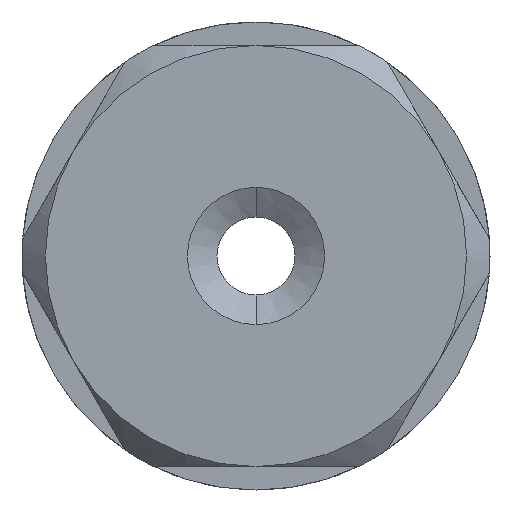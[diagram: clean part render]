
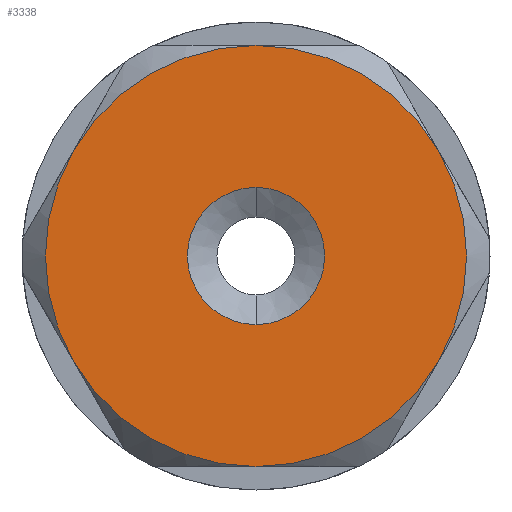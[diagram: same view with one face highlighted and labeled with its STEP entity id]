
A CAD part, front view. The second image highlights one B-rep face of the part: STEP entity #3338.
In plain terms, the highlighted planar face has unit normal (0, -1, 0).
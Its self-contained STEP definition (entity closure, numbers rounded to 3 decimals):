
#204 = CARTESIAN_POINT ( 'NONE',  ( -5.576, -27.434, 48. ) ) ;
#273 = AXIS2_PLACEMENT_3D ( 'NONE', #10227, #3758, #11290 ) ;
#386 = DIRECTION ( 'NONE',  ( 0., 0., 1. ) ) ;
#601 = DIRECTION ( 'NONE',  ( 0., -1., 0. ) ) ;
#917 = CARTESIAN_POINT ( 'NONE',  ( -5.576, -27.434, 61.5 ) ) ;
#1103 = CIRCLE ( 'NONE', #7234, 4.4 ) ;
#1307 = DIRECTION ( 'NONE',  ( 0., 0., 1. ) ) ;
#1311 = FACE_OUTER_BOUND ( 'NONE', #4607, .T. ) ;
#1739 = CIRCLE ( 'NONE', #3465, 4.4 ) ;
#1745 = CARTESIAN_POINT ( 'NONE',  ( -5.576, -27.434, 52.4 ) ) ;
#1901 = CIRCLE ( 'NONE', #273, 13.5 ) ;
#1931 = CARTESIAN_POINT ( 'NONE',  ( -5.576, -27.434, 48. ) ) ;
#2094 = EDGE_CURVE ( 'NONE', #5989, #10044, #6807, .T. ) ;
#2103 = ORIENTED_EDGE ( 'NONE', *, *, #11165, .T. ) ;
#2129 = ORIENTED_EDGE ( 'NONE', *, *, #3303, .T. ) ;
#2194 = ORIENTED_EDGE ( 'NONE', *, *, #13128, .T. ) ;
#2259 = AXIS2_PLACEMENT_3D ( 'NONE', #3419, #10947, #4525 ) ;
#2341 = AXIS2_PLACEMENT_3D ( 'NONE', #1931, #9483, #3014 ) ;
#2485 = ORIENTED_EDGE ( 'NONE', *, *, #4431, .F. ) ;
#2708 = AXIS2_PLACEMENT_3D ( 'NONE', #5259, #12750, #6318 ) ;
#3014 = DIRECTION ( 'NONE',  ( 0., 0., 1. ) ) ;
#3303 = EDGE_CURVE ( 'NONE', #10044, #8245, #12276, .T. ) ;
#3338 = ADVANCED_FACE ( 'NONE', ( #12090, #1311 ), #7899, .F. ) ;
#3419 = CARTESIAN_POINT ( 'NONE',  ( -5.576, -27.434, 48. ) ) ;
#3465 = AXIS2_PLACEMENT_3D ( 'NONE', #12177, #5741, #13267 ) ;
#3758 = DIRECTION ( 'NONE',  ( 0., -1., 0. ) ) ;
#3851 = ORIENTED_EDGE ( 'NONE', *, *, #4100, .T. ) ;
#3963 = CIRCLE ( 'NONE', #2341, 13.5 ) ;
#4100 = EDGE_CURVE ( 'NONE', #13743, #5989, #6709, .T. ) ;
#4314 = VERTEX_POINT ( 'NONE', #11962 ) ;
#4406 = AXIS2_PLACEMENT_3D ( 'NONE', #10741, #10892, #11813 ) ;
#4431 = EDGE_CURVE ( 'NONE', #13691, #4314, #1103, .T. ) ;
#4525 = DIRECTION ( 'NONE',  ( 0., 0., 1. ) ) ;
#4607 = EDGE_LOOP ( 'NONE', ( #2129, #2194, #2103, #12919, #3851, #8882 ) ) ;
#5259 = CARTESIAN_POINT ( 'NONE',  ( -5.576, -27.434, 48. ) ) ;
#5296 = EDGE_CURVE ( 'NONE', #4314, #13691, #1739, .T. ) ;
#5356 = EDGE_CURVE ( 'NONE', #7063, #13743, #1901, .T. ) ;
#5431 = CIRCLE ( 'NONE', #2708, 13.5 ) ;
#5741 = DIRECTION ( 'NONE',  ( 0., -1., 0. ) ) ;
#5989 = VERTEX_POINT ( 'NONE', #9068 ) ;
#6318 = DIRECTION ( 'NONE',  ( 0., 0., 1. ) ) ;
#6323 = VERTEX_POINT ( 'NONE', #10978 ) ;
#6709 = CIRCLE ( 'NONE', #2259, 13.5 ) ;
#6807 = CIRCLE ( 'NONE', #4406, 13.5 ) ;
#6875 = DIRECTION ( 'NONE',  ( 0., 1., 0. ) ) ;
#7063 = VERTEX_POINT ( 'NONE', #8306 ) ;
#7068 = CARTESIAN_POINT ( 'NONE',  ( -5.576, -27.434, 48. ) ) ;
#7234 = AXIS2_PLACEMENT_3D ( 'NONE', #7068, #601, #8154 ) ;
#7254 = CARTESIAN_POINT ( 'NONE',  ( 6.116, -27.434, 41.25 ) ) ;
#7768 = DIRECTION ( 'NONE',  ( 0., -1., 0. ) ) ;
#7899 = PLANE ( 'NONE',  #11088 ) ;
#8154 = DIRECTION ( 'NONE',  ( 0., 0., -1. ) ) ;
#8245 = VERTEX_POINT ( 'NONE', #12860 ) ;
#8306 = CARTESIAN_POINT ( 'NONE',  ( -5.576, -27.434, 34.5 ) ) ;
#8882 = ORIENTED_EDGE ( 'NONE', *, *, #2094, .T. ) ;
#9068 = CARTESIAN_POINT ( 'NONE',  ( 6.116, -27.434, 54.75 ) ) ;
#9483 = DIRECTION ( 'NONE',  ( 0., -1., 0. ) ) ;
#10044 = VERTEX_POINT ( 'NONE', #917 ) ;
#10100 = EDGE_LOOP ( 'NONE', ( #13039, #2485 ) ) ;
#10227 = CARTESIAN_POINT ( 'NONE',  ( -5.576, -27.434, 48. ) ) ;
#10741 = CARTESIAN_POINT ( 'NONE',  ( -5.576, -27.434, 48. ) ) ;
#10892 = DIRECTION ( 'NONE',  ( 0., -1., 0. ) ) ;
#10947 = DIRECTION ( 'NONE',  ( 0., -1., 0. ) ) ;
#10978 = CARTESIAN_POINT ( 'NONE',  ( -17.267, -27.434, 41.25 ) ) ;
#11088 = AXIS2_PLACEMENT_3D ( 'NONE', #13320, #6875, #386 ) ;
#11165 = EDGE_CURVE ( 'NONE', #6323, #7063, #3963, .T. ) ;
#11290 = DIRECTION ( 'NONE',  ( 0., 0., 1. ) ) ;
#11351 = AXIS2_PLACEMENT_3D ( 'NONE', #204, #7768, #1307 ) ;
#11813 = DIRECTION ( 'NONE',  ( 0., 0., 1. ) ) ;
#11962 = CARTESIAN_POINT ( 'NONE',  ( -5.576, -27.434, 43.6 ) ) ;
#12090 = FACE_BOUND ( 'NONE', #10100, .T. ) ;
#12177 = CARTESIAN_POINT ( 'NONE',  ( -5.576, -27.434, 48. ) ) ;
#12276 = CIRCLE ( 'NONE', #11351, 13.5 ) ;
#12750 = DIRECTION ( 'NONE',  ( 0., -1., 0. ) ) ;
#12860 = CARTESIAN_POINT ( 'NONE',  ( -17.267, -27.434, 54.75 ) ) ;
#12919 = ORIENTED_EDGE ( 'NONE', *, *, #5356, .T. ) ;
#13039 = ORIENTED_EDGE ( 'NONE', *, *, #5296, .F. ) ;
#13128 = EDGE_CURVE ( 'NONE', #8245, #6323, #5431, .T. ) ;
#13267 = DIRECTION ( 'NONE',  ( 0., 0., -1. ) ) ;
#13320 = CARTESIAN_POINT ( 'NONE',  ( -5.576, -27.434, 48. ) ) ;
#13691 = VERTEX_POINT ( 'NONE', #1745 ) ;
#13743 = VERTEX_POINT ( 'NONE', #7254 ) ;
